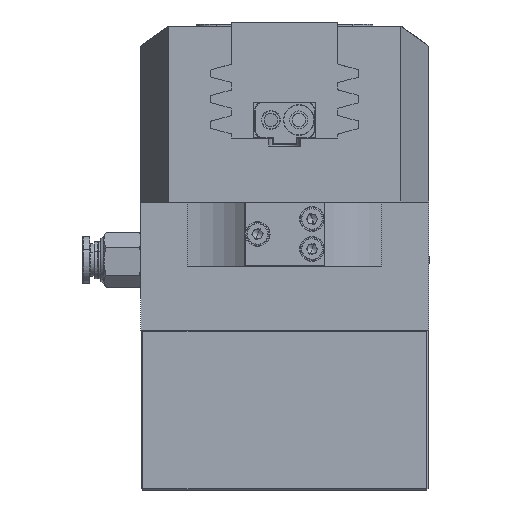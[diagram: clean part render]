
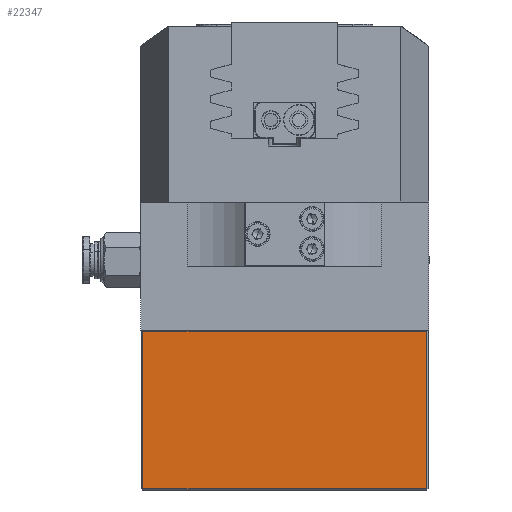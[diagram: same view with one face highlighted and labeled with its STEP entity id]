
A CAD part, left-side view. The second image highlights one B-rep face of the part: STEP entity #22347.
In plain terms, the highlighted planar face has unit normal (-1, 0, 0).
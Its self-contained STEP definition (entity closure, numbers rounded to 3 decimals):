
#226 = LINE ( 'NONE', #289, #13102 ) ;
#289 = CARTESIAN_POINT ( 'NONE',  ( -80.537, -26.45, -23.45 ) ) ;
#823 = VERTEX_POINT ( 'NONE', #30844 ) ;
#826 = CARTESIAN_POINT ( 'NONE',  ( -80.537, 44.85, 15.95 ) ) ;
#2134 = VERTEX_POINT ( 'NONE', #24636 ) ;
#2593 = DIRECTION ( 'NONE',  ( 0., 1., 0. ) ) ;
#2603 = VECTOR ( 'NONE', #2593, 1000. ) ;
#3355 = ORIENTED_EDGE ( 'NONE', *, *, #12571, .T. ) ;
#8604 = VERTEX_POINT ( 'NONE', #826 ) ;
#9522 = LINE ( 'NONE', #10935, #31686 ) ;
#10467 = EDGE_CURVE ( 'NONE', #823, #38662, #17037, .T. ) ;
#10935 = CARTESIAN_POINT ( 'NONE',  ( -80.537, 44.85, -23.75 ) ) ;
#12571 = EDGE_CURVE ( 'NONE', #2134, #823, #226, .T. ) ;
#12983 = DIRECTION ( 'NONE',  ( -1., 0., 0. ) ) ;
#13102 = VECTOR ( 'NONE', #16821, 1000. ) ;
#13375 = EDGE_CURVE ( 'NONE', #8604, #2134, #9522, .T. ) ;
#16009 = DIRECTION ( 'NONE',  ( 0., 0., -1. ) ) ;
#16157 = CARTESIAN_POINT ( 'NONE',  ( -80.537, -26.45, -23.75 ) ) ;
#16821 = DIRECTION ( 'NONE',  ( 0., -1., 0. ) ) ;
#17037 = LINE ( 'NONE', #24141, #35093 ) ;
#17254 = FACE_OUTER_BOUND ( 'NONE', #18100, .T. ) ;
#17442 = DIRECTION ( 'NONE',  ( 0., 0., 1. ) ) ;
#18100 = EDGE_LOOP ( 'NONE', ( #25956, #3355, #28462, #35217 ) ) ;
#19166 = EDGE_CURVE ( 'NONE', #38662, #8604, #23675, .T. ) ;
#22347 = ADVANCED_FACE ( 'NONE', ( #17254 ), #32483, .T. ) ;
#23675 = LINE ( 'NONE', #32150, #2603 ) ;
#23781 = DIRECTION ( 'NONE',  ( 0., 0., -1. ) ) ;
#24141 = CARTESIAN_POINT ( 'NONE',  ( -80.537, -26.15, -23.75 ) ) ;
#24636 = CARTESIAN_POINT ( 'NONE',  ( -80.537, 44.85, -23.45 ) ) ;
#25956 = ORIENTED_EDGE ( 'NONE', *, *, #13375, .T. ) ;
#28462 = ORIENTED_EDGE ( 'NONE', *, *, #10467, .T. ) ;
#28721 = CARTESIAN_POINT ( 'NONE',  ( -80.537, -26.15, 15.95 ) ) ;
#30844 = CARTESIAN_POINT ( 'NONE',  ( -80.537, -26.15, -23.45 ) ) ;
#31686 = VECTOR ( 'NONE', #23781, 1000. ) ;
#32150 = CARTESIAN_POINT ( 'NONE',  ( -80.537, -26.45, 15.95 ) ) ;
#32483 = PLANE ( 'NONE',  #33989 ) ;
#33989 = AXIS2_PLACEMENT_3D ( 'NONE', #16157, #12983, #16009 ) ;
#35093 = VECTOR ( 'NONE', #17442, 1000. ) ;
#35217 = ORIENTED_EDGE ( 'NONE', *, *, #19166, .T. ) ;
#38662 = VERTEX_POINT ( 'NONE', #28721 ) ;
